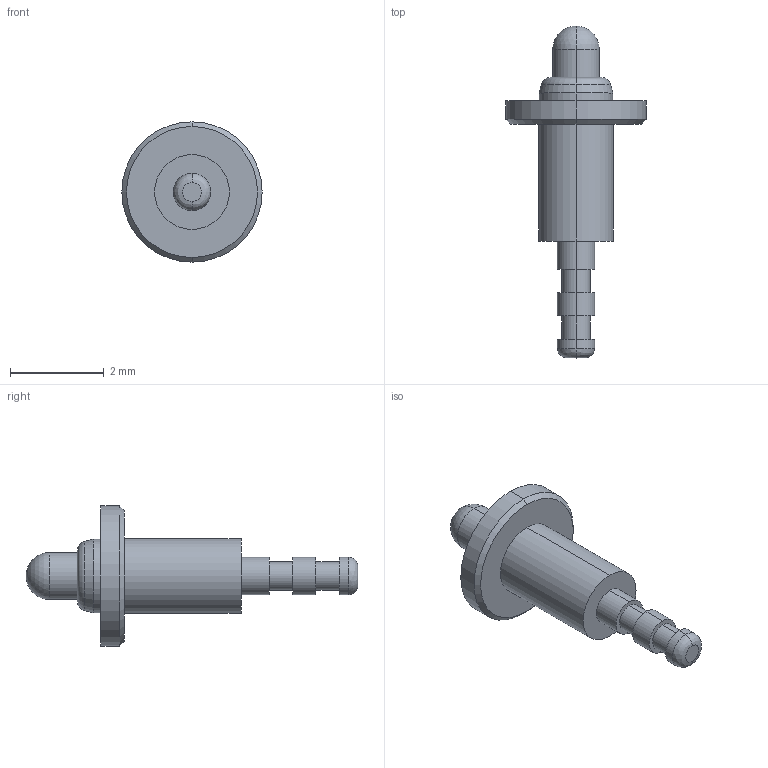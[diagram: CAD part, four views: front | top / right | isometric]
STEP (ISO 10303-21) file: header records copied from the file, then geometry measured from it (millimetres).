
FILE_DESCRIPTION((''),'2;1');
FILE_NAME('C1719-01','2022-05-18T14:43:02',('Administrator'),(''),'CREO PARAMETRIC BY PTC INC, 2018400','CREO PARAMETRIC BY PTC INC, 2018400','');
FILE_SCHEMA(('CONFIG_CONTROL_DESIGN'));
Length unit declared in the file: millimetre
Products named in the file (1): C1719-01
Bounding box: 3 x 7.1 x 3 mm (x, y, z)
Volume: 11.1 mm3; surface area: 41.6 mm2
Topology: 1 solids, 1 shells, 37 faces, 74 edges, 45 vertices
Faces by surface type: cylinder 18, plane 9, cone 4, torus 2, sphere 2, bspline 2
Entity records: 1048 total; most frequent: CARTESIAN_POINT 208, DIRECTION 192, ORIENTED_EDGE 144, AXIS2_PLACEMENT_3D 85, EDGE_CURVE 72, CIRCLE 50, VERTEX_POINT 45, EDGE_LOOP 45
